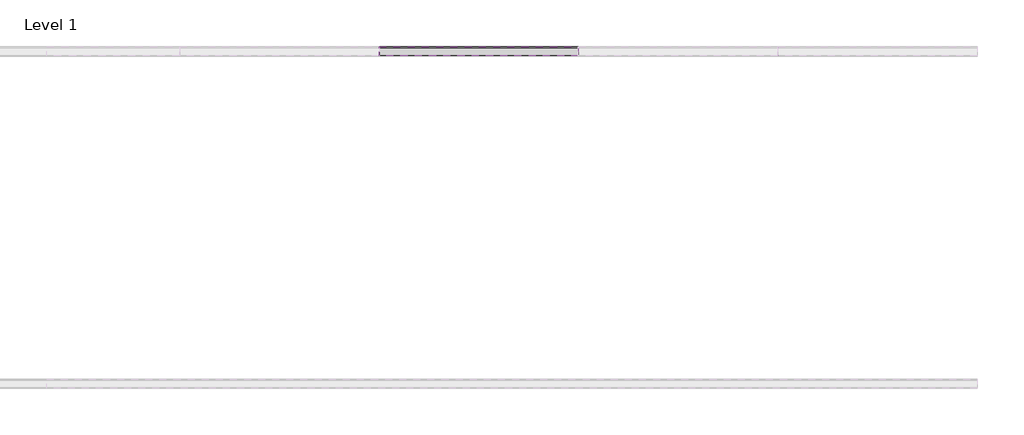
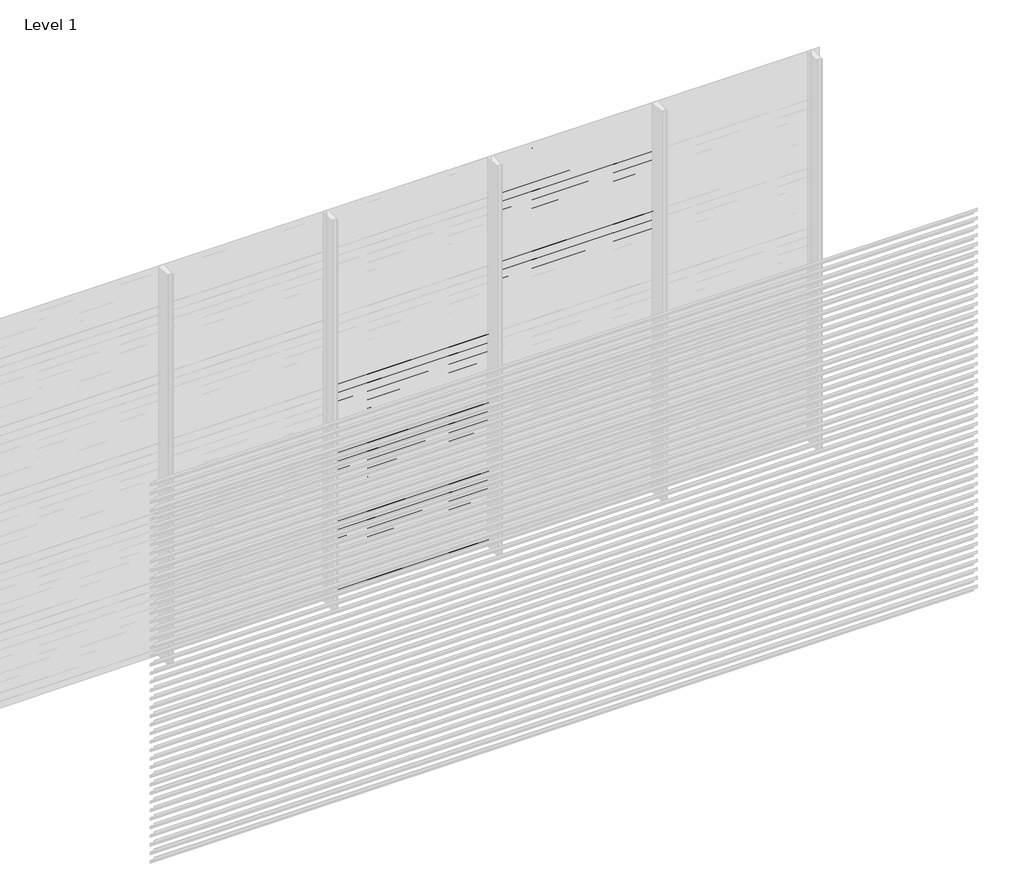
# One storey, part 128 of 540: 43 proxies.
"""IFC4 building model written with IfcOpenShell, lengths in millimetres."""

from ifc_helpers import new_model, si_unit, point, frame, frame_2d, origin, place, context, project, spatial, polyline, circle_curve, trimmed, segment, composite_curve, outline, extrude, element, save

model = new_model("IFC4")

# Units and contexts
model_context = context("Model", 3, world=origin())
ifc_project = project(units=[si_unit("LENGTHUNIT", "METRE", prefix="MILLI")], contexts=[model_context])

# Site, building, storey
site = spatial("IfcSite", under=ifc_project)
building = spatial("IfcBuilding", under=site)
storey = spatial("IfcBuildingStorey", under=building, Name="Level 1", Elevation=0.0)

# Proxies
placement = place(None, origin())
element("IfcBuildingElementProxy", 1, Name="Wall Sweeps", at=placement, inside=storey, context=model_context, shape_type="SweptSolid", body=[
    extrude(outline(composite_curve([segment(trimmed(circle_curve(frame_2d((14013.609548, 1777.7676769)), 26.4944656), [point((14030.5717655, 1798.1205608))], [point((14040.0540136, 1779.3946208))], False, "CARTESIAN"), True, "CONTINUOUS"), segment(polyline([(14040.0540136, 1779.3946208), (14040.0540136, 1771.5), (14038.8040136, 1772.2216933), (14038.8040136, 1777.7676769)]), True, "CONTINUOUS"), segment(trimmed(circle_curve(frame_2d((14013.609548, 1777.7676769)), 25.1944656), [point((14038.8040136, 1777.7676769))], [point((14029.7815085, 1797.086807))], True, "CARTESIAN"), True, "CONTINUOUS"), segment(polyline([(14029.7815085, 1797.086807), (13985.0540136, 1828.3158044), (13985.0540136, 1848.0), (13986.3040136, 1848.0), (13986.3040136, 1829.0285629), (14030.5717655, 1798.1205608)]), True, "CONTINUOUS")], self_intersect=False)), frame((91866.6208097, 0.0, 0.0), z_axis=(1.0, 0.0, 0.0), x_axis=(0.0, 1.0, 0.0)), (0.0, 0.0, 1.0), 1199.9999999),
])
element("IfcBuildingElementProxy", 2, Name="Wall Sweeps", at=placement, inside=storey, context=model_context, shape_type="SweptSolid", body=[
    extrude(outline(composite_curve([segment(trimmed(circle_curve(frame_2d((14013.609548, 1711.7676769)), 26.4944656), [point((14030.5717655, 1732.1205608))], [point((14040.0540136, 1713.3946208))], False, "CARTESIAN"), True, "CONTINUOUS"), segment(polyline([(14040.0540136, 1713.3946208), (14040.0540136, 1705.5), (14038.8040136, 1706.2216933), (14038.8040136, 1711.7676769)]), True, "CONTINUOUS"), segment(trimmed(circle_curve(frame_2d((14013.609548, 1711.7676769)), 25.1944656), [point((14038.8040136, 1711.7676769))], [point((14029.7815085, 1731.086807))], True, "CARTESIAN"), True, "CONTINUOUS"), segment(polyline([(14029.7815085, 1731.086807), (13985.0540136, 1762.3158044), (13985.0540136, 1782.0), (13986.3040136, 1782.0), (13986.3040136, 1763.0285629), (14030.5717655, 1732.1205608)]), True, "CONTINUOUS")], self_intersect=False)), frame((91866.6208097, 0.0, 0.0), z_axis=(1.0, 0.0, 0.0), x_axis=(0.0, 1.0, 0.0)), (0.0, 0.0, 1.0), 1199.9999999),
])
element("IfcBuildingElementProxy", 3, Name="Wall Sweeps", at=placement, inside=storey, context=model_context, shape_type="SweptSolid", body=[
    extrude(outline(composite_curve([segment(trimmed(circle_curve(frame_2d((14013.609548, 1645.7676769)), 26.4944656), [point((14030.5717655, 1666.1205608))], [point((14040.0540136, 1647.3946208))], False, "CARTESIAN"), True, "CONTINUOUS"), segment(polyline([(14040.0540136, 1647.3946208), (14040.0540136, 1639.5), (14038.8040136, 1640.2216933), (14038.8040136, 1645.7676769)]), True, "CONTINUOUS"), segment(trimmed(circle_curve(frame_2d((14013.609548, 1645.7676769)), 25.1944656), [point((14038.8040136, 1645.7676769))], [point((14029.7815085, 1665.086807))], True, "CARTESIAN"), True, "CONTINUOUS"), segment(polyline([(14029.7815085, 1665.086807), (13985.0540136, 1696.3158044), (13985.0540136, 1716.0), (13986.3040136, 1716.0), (13986.3040136, 1697.0285629), (14030.5717655, 1666.1205608)]), True, "CONTINUOUS")], self_intersect=False)), frame((91866.6208097, 0.0, 0.0), z_axis=(1.0, 0.0, 0.0), x_axis=(0.0, 1.0, 0.0)), (0.0, 0.0, 1.0), 1199.9999999),
])
element("IfcBuildingElementProxy", 4, Name="Wall Sweeps", at=placement, inside=storey, context=model_context, shape_type="SweptSolid", body=[
    extrude(outline(composite_curve([segment(trimmed(circle_curve(frame_2d((14013.609548, 1579.7676769)), 26.4944656), [point((14030.5717655, 1600.1205608))], [point((14040.0540136, 1581.3946208))], False, "CARTESIAN"), True, "CONTINUOUS"), segment(polyline([(14040.0540136, 1581.3946208), (14040.0540136, 1573.5), (14038.8040136, 1574.2216933), (14038.8040136, 1579.7676769)]), True, "CONTINUOUS"), segment(trimmed(circle_curve(frame_2d((14013.609548, 1579.7676769)), 25.1944656), [point((14038.8040136, 1579.7676769))], [point((14029.7815085, 1599.086807))], True, "CARTESIAN"), True, "CONTINUOUS"), segment(polyline([(14029.7815085, 1599.086807), (13985.0540136, 1630.3158044), (13985.0540136, 1650.0), (13986.3040136, 1650.0), (13986.3040136, 1631.0285629), (14030.5717655, 1600.1205608)]), True, "CONTINUOUS")], self_intersect=False)), frame((91866.6208097, 0.0, 0.0), z_axis=(1.0, 0.0, 0.0), x_axis=(0.0, 1.0, 0.0)), (0.0, 0.0, 1.0), 1199.9999999),
])
element("IfcBuildingElementProxy", 5, Name="Wall Sweeps", at=placement, inside=storey, context=model_context, shape_type="SweptSolid", body=[
    extrude(outline(composite_curve([segment(trimmed(circle_curve(frame_2d((14013.609548, 1513.7676769)), 26.4944656), [point((14030.5717655, 1534.1205608))], [point((14040.0540136, 1515.3946208))], False, "CARTESIAN"), True, "CONTINUOUS"), segment(polyline([(14040.0540136, 1515.3946208), (14040.0540136, 1507.5), (14038.8040136, 1508.2216933), (14038.8040136, 1513.7676769)]), True, "CONTINUOUS"), segment(trimmed(circle_curve(frame_2d((14013.609548, 1513.7676769)), 25.1944656), [point((14038.8040136, 1513.7676769))], [point((14029.7815085, 1533.086807))], True, "CARTESIAN"), True, "CONTINUOUS"), segment(polyline([(14029.7815085, 1533.086807), (13985.0540136, 1564.3158044), (13985.0540136, 1584.0), (13986.3040136, 1584.0), (13986.3040136, 1565.0285629), (14030.5717655, 1534.1205608)]), True, "CONTINUOUS")], self_intersect=False)), frame((91866.6208097, 0.0, 0.0), z_axis=(1.0, 0.0, 0.0), x_axis=(0.0, 1.0, 0.0)), (0.0, 0.0, 1.0), 1199.9999999),
])
element("IfcBuildingElementProxy", 6, Name="Wall Sweeps", at=placement, inside=storey, context=model_context, shape_type="SweptSolid", body=[
    extrude(outline(composite_curve([segment(trimmed(circle_curve(frame_2d((14013.609548, 1447.7676769)), 26.4944656), [point((14030.5717655, 1468.1205608))], [point((14040.0540136, 1449.3946208))], False, "CARTESIAN"), True, "CONTINUOUS"), segment(polyline([(14040.0540136, 1449.3946208), (14040.0540136, 1441.5), (14038.8040136, 1442.2216933), (14038.8040136, 1447.7676769)]), True, "CONTINUOUS"), segment(trimmed(circle_curve(frame_2d((14013.609548, 1447.7676769)), 25.1944656), [point((14038.8040136, 1447.7676769))], [point((14029.7815085, 1467.086807))], True, "CARTESIAN"), True, "CONTINUOUS"), segment(polyline([(14029.7815085, 1467.086807), (13985.0540136, 1498.3158044), (13985.0540136, 1518.0), (13986.3040136, 1518.0), (13986.3040136, 1499.0285629), (14030.5717655, 1468.1205608)]), True, "CONTINUOUS")], self_intersect=False)), frame((91866.6208097, 0.0, 0.0), z_axis=(1.0, 0.0, 0.0), x_axis=(0.0, 1.0, 0.0)), (0.0, 0.0, 1.0), 1199.9999999),
])
element("IfcBuildingElementProxy", 7, Name="Wall Sweeps", at=placement, inside=storey, context=model_context, shape_type="SweptSolid", body=[
    extrude(outline(composite_curve([segment(trimmed(circle_curve(frame_2d((14013.609548, 1381.7676769)), 26.4944656), [point((14030.5717655, 1402.1205608))], [point((14040.0540136, 1383.3946208))], False, "CARTESIAN"), True, "CONTINUOUS"), segment(polyline([(14040.0540136, 1383.3946208), (14040.0540136, 1375.5), (14038.8040136, 1376.2216933), (14038.8040136, 1381.7676769)]), True, "CONTINUOUS"), segment(trimmed(circle_curve(frame_2d((14013.609548, 1381.7676769)), 25.1944656), [point((14038.8040136, 1381.7676769))], [point((14029.7815085, 1401.086807))], True, "CARTESIAN"), True, "CONTINUOUS"), segment(polyline([(14029.7815085, 1401.086807), (13985.0540136, 1432.3158044), (13985.0540136, 1452.0), (13986.3040136, 1452.0), (13986.3040136, 1433.0285629), (14030.5717655, 1402.1205608)]), True, "CONTINUOUS")], self_intersect=False)), frame((91866.6208097, 0.0, 0.0), z_axis=(1.0, 0.0, 0.0), x_axis=(0.0, 1.0, 0.0)), (0.0, 0.0, 1.0), 1199.9999999),
])
element("IfcBuildingElementProxy", 8, Name="Wall Sweeps", at=placement, inside=storey, context=model_context, shape_type="SweptSolid", body=[
    extrude(outline(composite_curve([segment(trimmed(circle_curve(frame_2d((14013.609548, 1315.7676769)), 26.4944656), [point((14030.5717655, 1336.1205608))], [point((14040.0540136, 1317.3946208))], False, "CARTESIAN"), True, "CONTINUOUS"), segment(polyline([(14040.0540136, 1317.3946208), (14040.0540136, 1309.5), (14038.8040136, 1310.2216933), (14038.8040136, 1315.7676769)]), True, "CONTINUOUS"), segment(trimmed(circle_curve(frame_2d((14013.609548, 1315.7676769)), 25.1944656), [point((14038.8040136, 1315.7676769))], [point((14029.7815085, 1335.086807))], True, "CARTESIAN"), True, "CONTINUOUS"), segment(polyline([(14029.7815085, 1335.086807), (13985.0540136, 1366.3158044), (13985.0540136, 1386.0), (13986.3040136, 1386.0), (13986.3040136, 1367.0285629), (14030.5717655, 1336.1205608)]), True, "CONTINUOUS")], self_intersect=False)), frame((91866.6208097, 0.0, 0.0), z_axis=(1.0, 0.0, 0.0), x_axis=(0.0, 1.0, 0.0)), (0.0, 0.0, 1.0), 1199.9999999),
])
element("IfcBuildingElementProxy", 9, Name="Wall Sweeps", at=placement, inside=storey, context=model_context, shape_type="SweptSolid", body=[
    extrude(outline(composite_curve([segment(trimmed(circle_curve(frame_2d((14013.609548, 1249.7676769)), 26.4944656), [point((14030.5717655, 1270.1205608))], [point((14040.0540136, 1251.3946208))], False, "CARTESIAN"), True, "CONTINUOUS"), segment(polyline([(14040.0540136, 1251.3946208), (14040.0540136, 1243.5), (14038.8040136, 1244.2216933), (14038.8040136, 1249.7676769)]), True, "CONTINUOUS"), segment(trimmed(circle_curve(frame_2d((14013.609548, 1249.7676769)), 25.1944656), [point((14038.8040136, 1249.7676769))], [point((14029.7815085, 1269.086807))], True, "CARTESIAN"), True, "CONTINUOUS"), segment(polyline([(14029.7815085, 1269.086807), (13985.0540136, 1300.3158044), (13985.0540136, 1320.0), (13986.3040136, 1320.0), (13986.3040136, 1301.0285629), (14030.5717655, 1270.1205608)]), True, "CONTINUOUS")], self_intersect=False)), frame((91866.6208097, 0.0, 0.0), z_axis=(1.0, 0.0, 0.0), x_axis=(0.0, 1.0, 0.0)), (0.0, 0.0, 1.0), 1199.9999999),
])
element("IfcBuildingElementProxy", 10, Name="Wall Sweeps", at=placement, inside=storey, context=model_context, shape_type="SweptSolid", body=[
    extrude(outline(composite_curve([segment(trimmed(circle_curve(frame_2d((14013.609548, 1183.7676769)), 26.4944656), [point((14030.5717655, 1204.1205608))], [point((14040.0540136, 1185.3946208))], False, "CARTESIAN"), True, "CONTINUOUS"), segment(polyline([(14040.0540136, 1185.3946208), (14040.0540136, 1177.5), (14038.8040136, 1178.2216933), (14038.8040136, 1183.7676769)]), True, "CONTINUOUS"), segment(trimmed(circle_curve(frame_2d((14013.609548, 1183.7676769)), 25.1944656), [point((14038.8040136, 1183.7676769))], [point((14029.7815085, 1203.086807))], True, "CARTESIAN"), True, "CONTINUOUS"), segment(polyline([(14029.7815085, 1203.086807), (13985.0540136, 1234.3158044), (13985.0540136, 1254.0), (13986.3040136, 1254.0), (13986.3040136, 1235.0285629), (14030.5717655, 1204.1205608)]), True, "CONTINUOUS")], self_intersect=False)), frame((91866.6208097, 0.0, 0.0), z_axis=(1.0, 0.0, 0.0), x_axis=(0.0, 1.0, 0.0)), (0.0, 0.0, 1.0), 1199.9999999),
])
element("IfcBuildingElementProxy", 11, Name="Wall Sweeps", at=placement, inside=storey, context=model_context, shape_type="SweptSolid", body=[
    extrude(outline(composite_curve([segment(trimmed(circle_curve(frame_2d((14013.609548, 1117.7676769)), 26.4944656), [point((14030.5717655, 1138.1205608))], [point((14040.0540136, 1119.3946208))], False, "CARTESIAN"), True, "CONTINUOUS"), segment(polyline([(14040.0540136, 1119.3946208), (14040.0540136, 1111.5), (14038.8040136, 1112.2216933), (14038.8040136, 1117.7676769)]), True, "CONTINUOUS"), segment(trimmed(circle_curve(frame_2d((14013.609548, 1117.7676769)), 25.1944656), [point((14038.8040136, 1117.7676769))], [point((14029.7815085, 1137.086807))], True, "CARTESIAN"), True, "CONTINUOUS"), segment(polyline([(14029.7815085, 1137.086807), (13985.0540136, 1168.3158044), (13985.0540136, 1188.0), (13986.3040136, 1188.0), (13986.3040136, 1169.0285629), (14030.5717655, 1138.1205608)]), True, "CONTINUOUS")], self_intersect=False)), frame((91866.6208097, 0.0, 0.0), z_axis=(1.0, 0.0, 0.0), x_axis=(0.0, 1.0, 0.0)), (0.0, 0.0, 1.0), 1199.9999999),
])
element("IfcBuildingElementProxy", 12, Name="Wall Sweeps", at=placement, inside=storey, context=model_context, shape_type="SweptSolid", body=[
    extrude(outline(composite_curve([segment(trimmed(circle_curve(frame_2d((14013.609548, 1051.7676769)), 26.4944656), [point((14030.5717655, 1072.1205608))], [point((14040.0540136, 1053.3946208))], False, "CARTESIAN"), True, "CONTINUOUS"), segment(polyline([(14040.0540136, 1053.3946208), (14040.0540136, 1045.5), (14038.8040136, 1046.2216933), (14038.8040136, 1051.7676769)]), True, "CONTINUOUS"), segment(trimmed(circle_curve(frame_2d((14013.609548, 1051.7676769)), 25.1944656), [point((14038.8040136, 1051.7676769))], [point((14029.7815085, 1071.086807))], True, "CARTESIAN"), True, "CONTINUOUS"), segment(polyline([(14029.7815085, 1071.086807), (13985.0540136, 1102.3158044), (13985.0540136, 1122.0), (13986.3040136, 1122.0), (13986.3040136, 1103.0285629), (14030.5717655, 1072.1205608)]), True, "CONTINUOUS")], self_intersect=False)), frame((91866.6208097, 0.0, 0.0), z_axis=(1.0, 0.0, 0.0), x_axis=(0.0, 1.0, 0.0)), (0.0, 0.0, 1.0), 1199.9999999),
])
element("IfcBuildingElementProxy", 13, Name="Wall Sweeps", at=placement, inside=storey, context=model_context, shape_type="SweptSolid", body=[
    extrude(outline(composite_curve([segment(trimmed(circle_curve(frame_2d((14013.609548, 985.7676769)), 26.4944656), [point((14030.5717655, 1006.1205608))], [point((14040.0540136, 987.3946208))], False, "CARTESIAN"), True, "CONTINUOUS"), segment(polyline([(14040.0540136, 987.3946208), (14040.0540136, 979.5), (14038.8040136, 980.2216933), (14038.8040136, 985.7676769)]), True, "CONTINUOUS"), segment(trimmed(circle_curve(frame_2d((14013.609548, 985.7676769)), 25.1944656), [point((14038.8040136, 985.7676769))], [point((14029.7815085, 1005.086807))], True, "CARTESIAN"), True, "CONTINUOUS"), segment(polyline([(14029.7815085, 1005.086807), (13985.0540136, 1036.3158044), (13985.0540136, 1056.0), (13986.3040136, 1056.0), (13986.3040136, 1037.0285629), (14030.5717655, 1006.1205608)]), True, "CONTINUOUS")], self_intersect=False)), frame((91866.6208097, 0.0, 0.0), z_axis=(1.0, 0.0, 0.0), x_axis=(0.0, 1.0, 0.0)), (0.0, 0.0, 1.0), 1199.9999999),
])
element("IfcBuildingElementProxy", 14, Name="Wall Sweeps", at=placement, inside=storey, context=model_context, shape_type="SweptSolid", body=[
    extrude(outline(composite_curve([segment(trimmed(circle_curve(frame_2d((14013.609548, 919.7676769)), 26.4944656), [point((14030.5717655, 940.1205608))], [point((14040.0540136, 921.3946208))], False, "CARTESIAN"), True, "CONTINUOUS"), segment(polyline([(14040.0540136, 921.3946208), (14040.0540136, 913.5), (14038.8040136, 914.2216933), (14038.8040136, 919.7676769)]), True, "CONTINUOUS"), segment(trimmed(circle_curve(frame_2d((14013.609548, 919.7676769)), 25.1944656), [point((14038.8040136, 919.7676769))], [point((14029.7815085, 939.086807))], True, "CARTESIAN"), True, "CONTINUOUS"), segment(polyline([(14029.7815085, 939.086807), (13985.0540136, 970.3158044), (13985.0540136, 990.0), (13986.3040136, 990.0), (13986.3040136, 971.0285629), (14030.5717655, 940.1205608)]), True, "CONTINUOUS")], self_intersect=False)), frame((91866.6208097, 0.0, 0.0), z_axis=(1.0, 0.0, 0.0), x_axis=(0.0, 1.0, 0.0)), (0.0, 0.0, 1.0), 1199.9999999),
])
element("IfcBuildingElementProxy", 15, Name="Wall Sweeps", at=placement, inside=storey, context=model_context, shape_type="SweptSolid", body=[
    extrude(outline(composite_curve([segment(trimmed(circle_curve(frame_2d((14013.609548, 853.7676769)), 26.4944656), [point((14030.5717655, 874.1205608))], [point((14040.0540136, 855.3946208))], False, "CARTESIAN"), True, "CONTINUOUS"), segment(polyline([(14040.0540136, 855.3946208), (14040.0540136, 847.5), (14038.8040136, 848.2216933), (14038.8040136, 853.7676769)]), True, "CONTINUOUS"), segment(trimmed(circle_curve(frame_2d((14013.609548, 853.7676769)), 25.1944656), [point((14038.8040136, 853.7676769))], [point((14029.7815085, 873.086807))], True, "CARTESIAN"), True, "CONTINUOUS"), segment(polyline([(14029.7815085, 873.086807), (13985.0540136, 904.3158044), (13985.0540136, 924.0), (13986.3040136, 924.0), (13986.3040136, 905.0285629), (14030.5717655, 874.1205608)]), True, "CONTINUOUS")], self_intersect=False)), frame((91866.6208097, 0.0, 0.0), z_axis=(1.0, 0.0, 0.0), x_axis=(0.0, 1.0, 0.0)), (0.0, 0.0, 1.0), 1199.9999999),
])
element("IfcBuildingElementProxy", 16, Name="Wall Sweeps", at=placement, inside=storey, context=model_context, shape_type="SweptSolid", body=[
    extrude(outline(composite_curve([segment(trimmed(circle_curve(frame_2d((14013.609548, 787.7676769)), 26.4944656), [point((14030.5717655, 808.1205608))], [point((14040.0540136, 789.3946208))], False, "CARTESIAN"), True, "CONTINUOUS"), segment(polyline([(14040.0540136, 789.3946208), (14040.0540136, 781.5), (14038.8040136, 782.2216933), (14038.8040136, 787.7676769)]), True, "CONTINUOUS"), segment(trimmed(circle_curve(frame_2d((14013.609548, 787.7676769)), 25.1944656), [point((14038.8040136, 787.7676769))], [point((14029.7815085, 807.086807))], True, "CARTESIAN"), True, "CONTINUOUS"), segment(polyline([(14029.7815085, 807.086807), (13985.0540136, 838.3158044), (13985.0540136, 858.0), (13986.3040136, 858.0), (13986.3040136, 839.0285629), (14030.5717655, 808.1205608)]), True, "CONTINUOUS")], self_intersect=False)), frame((91866.6208097, 0.0, 0.0), z_axis=(1.0, 0.0, 0.0), x_axis=(0.0, 1.0, 0.0)), (0.0, 0.0, 1.0), 1199.9999999),
])
element("IfcBuildingElementProxy", 17, Name="Wall Sweeps", at=placement, inside=storey, context=model_context, shape_type="SweptSolid", body=[
    extrude(outline(composite_curve([segment(trimmed(circle_curve(frame_2d((14013.609548, 721.7676769)), 26.4944656), [point((14030.5717655, 742.1205608))], [point((14040.0540136, 723.3946208))], False, "CARTESIAN"), True, "CONTINUOUS"), segment(polyline([(14040.0540136, 723.3946208), (14040.0540136, 715.5), (14038.8040136, 716.2216933), (14038.8040136, 721.7676769)]), True, "CONTINUOUS"), segment(trimmed(circle_curve(frame_2d((14013.609548, 721.7676769)), 25.1944656), [point((14038.8040136, 721.7676769))], [point((14029.7815085, 741.086807))], True, "CARTESIAN"), True, "CONTINUOUS"), segment(polyline([(14029.7815085, 741.086807), (13985.0540136, 772.3158044), (13985.0540136, 792.0), (13986.3040136, 792.0), (13986.3040136, 773.0285629), (14030.5717655, 742.1205608)]), True, "CONTINUOUS")], self_intersect=False)), frame((91866.6208097, 0.0, 0.0), z_axis=(1.0, 0.0, 0.0), x_axis=(0.0, 1.0, 0.0)), (0.0, 0.0, 1.0), 1199.9999999),
])
element("IfcBuildingElementProxy", 18, Name="Wall Sweeps", at=placement, inside=storey, context=model_context, shape_type="SweptSolid", body=[
    extrude(outline(composite_curve([segment(trimmed(circle_curve(frame_2d((14013.609548, 655.7676769)), 26.4944656), [point((14030.5717655, 676.1205608))], [point((14040.0540136, 657.3946208))], False, "CARTESIAN"), True, "CONTINUOUS"), segment(polyline([(14040.0540136, 657.3946208), (14040.0540136, 649.5), (14038.8040136, 650.2216933), (14038.8040136, 655.7676769)]), True, "CONTINUOUS"), segment(trimmed(circle_curve(frame_2d((14013.609548, 655.7676769)), 25.1944656), [point((14038.8040136, 655.7676769))], [point((14029.7815085, 675.086807))], True, "CARTESIAN"), True, "CONTINUOUS"), segment(polyline([(14029.7815085, 675.086807), (13985.0540136, 706.3158044), (13985.0540136, 726.0), (13986.3040136, 726.0), (13986.3040136, 707.0285629), (14030.5717655, 676.1205608)]), True, "CONTINUOUS")], self_intersect=False)), frame((91866.6208097, 0.0, 0.0), z_axis=(1.0, 0.0, 0.0), x_axis=(0.0, 1.0, 0.0)), (0.0, 0.0, 1.0), 1199.9999999),
])
element("IfcBuildingElementProxy", 19, Name="Wall Sweeps", at=placement, inside=storey, context=model_context, shape_type="SweptSolid", body=[
    extrude(outline(composite_curve([segment(trimmed(circle_curve(frame_2d((14013.609548, 589.7676769)), 26.4944656), [point((14030.5717655, 610.1205608))], [point((14040.0540136, 591.3946208))], False, "CARTESIAN"), True, "CONTINUOUS"), segment(polyline([(14040.0540136, 591.3946208), (14040.0540136, 583.5), (14038.8040136, 584.2216933), (14038.8040136, 589.7676769)]), True, "CONTINUOUS"), segment(trimmed(circle_curve(frame_2d((14013.609548, 589.7676769)), 25.1944656), [point((14038.8040136, 589.7676769))], [point((14029.7815085, 609.086807))], True, "CARTESIAN"), True, "CONTINUOUS"), segment(polyline([(14029.7815085, 609.086807), (13985.0540136, 640.3158044), (13985.0540136, 660.0), (13986.3040136, 660.0), (13986.3040136, 641.0285629), (14030.5717655, 610.1205608)]), True, "CONTINUOUS")], self_intersect=False)), frame((91866.6208097, 0.0, 0.0), z_axis=(1.0, 0.0, 0.0), x_axis=(0.0, 1.0, 0.0)), (0.0, 0.0, 1.0), 1199.9999999),
])
element("IfcBuildingElementProxy", 20, Name="Wall Sweeps", at=placement, inside=storey, context=model_context, shape_type="SweptSolid", body=[
    extrude(outline(composite_curve([segment(trimmed(circle_curve(frame_2d((14013.609548, 523.7676769)), 26.4944656), [point((14030.5717655, 544.1205608))], [point((14040.0540136, 525.3946208))], False, "CARTESIAN"), True, "CONTINUOUS"), segment(polyline([(14040.0540136, 525.3946208), (14040.0540136, 517.5), (14038.8040136, 518.2216933), (14038.8040136, 523.7676769)]), True, "CONTINUOUS"), segment(trimmed(circle_curve(frame_2d((14013.609548, 523.7676769)), 25.1944656), [point((14038.8040136, 523.7676769))], [point((14029.7815085, 543.086807))], True, "CARTESIAN"), True, "CONTINUOUS"), segment(polyline([(14029.7815085, 543.086807), (13985.0540136, 574.3158044), (13985.0540136, 594.0), (13986.3040136, 594.0), (13986.3040136, 575.0285629), (14030.5717655, 544.1205608)]), True, "CONTINUOUS")], self_intersect=False)), frame((91866.6208097, 0.0, 0.0), z_axis=(1.0, 0.0, 0.0), x_axis=(0.0, 1.0, 0.0)), (0.0, 0.0, 1.0), 1199.9999999),
])
element("IfcBuildingElementProxy", 21, Name="Wall Sweeps", at=placement, inside=storey, context=model_context, shape_type="SweptSolid", body=[
    extrude(outline(composite_curve([segment(trimmed(circle_curve(frame_2d((14013.609548, 457.7676769)), 26.4944656), [point((14030.5717655, 478.1205608))], [point((14040.0540136, 459.3946208))], False, "CARTESIAN"), True, "CONTINUOUS"), segment(polyline([(14040.0540136, 459.3946208), (14040.0540136, 451.5), (14038.8040136, 452.2216933), (14038.8040136, 457.7676769)]), True, "CONTINUOUS"), segment(trimmed(circle_curve(frame_2d((14013.609548, 457.7676769)), 25.1944656), [point((14038.8040136, 457.7676769))], [point((14029.7815085, 477.086807))], True, "CARTESIAN"), True, "CONTINUOUS"), segment(polyline([(14029.7815085, 477.086807), (13985.0540136, 508.3158044), (13985.0540136, 528.0), (13986.3040136, 528.0), (13986.3040136, 509.0285629), (14030.5717655, 478.1205608)]), True, "CONTINUOUS")], self_intersect=False)), frame((91866.6208097, 0.0, 0.0), z_axis=(1.0, 0.0, 0.0), x_axis=(0.0, 1.0, 0.0)), (0.0, 0.0, 1.0), 1199.9999999),
])
element("IfcBuildingElementProxy", 22, Name="Wall Sweeps", at=placement, inside=storey, context=model_context, shape_type="SweptSolid", body=[
    extrude(outline(composite_curve([segment(trimmed(circle_curve(frame_2d((14013.609548, 391.7676769)), 26.4944656), [point((14030.5717655, 412.1205608))], [point((14040.0540136, 393.3946208))], False, "CARTESIAN"), True, "CONTINUOUS"), segment(polyline([(14040.0540136, 393.3946208), (14040.0540136, 385.5), (14038.8040136, 386.2216933), (14038.8040136, 391.7676769)]), True, "CONTINUOUS"), segment(trimmed(circle_curve(frame_2d((14013.609548, 391.7676769)), 25.1944656), [point((14038.8040136, 391.7676769))], [point((14029.7815085, 411.086807))], True, "CARTESIAN"), True, "CONTINUOUS"), segment(polyline([(14029.7815085, 411.086807), (13985.0540136, 442.3158044), (13985.0540136, 462.0), (13986.3040136, 462.0), (13986.3040136, 443.0285629), (14030.5717655, 412.1205608)]), True, "CONTINUOUS")], self_intersect=False)), frame((91866.6208097, 0.0, 0.0), z_axis=(1.0, 0.0, 0.0), x_axis=(0.0, 1.0, 0.0)), (0.0, 0.0, 1.0), 1199.9999999),
])
element("IfcBuildingElementProxy", 23, Name="Wall Sweeps", at=placement, inside=storey, context=model_context, shape_type="SweptSolid", body=[
    extrude(outline(composite_curve([segment(trimmed(circle_curve(frame_2d((14013.609548, 325.7676769)), 26.4944656), [point((14030.5717655, 346.1205608))], [point((14040.0540136, 327.3946208))], False, "CARTESIAN"), True, "CONTINUOUS"), segment(polyline([(14040.0540136, 327.3946208), (14040.0540136, 319.5), (14038.8040136, 320.2216933), (14038.8040136, 325.7676769)]), True, "CONTINUOUS"), segment(trimmed(circle_curve(frame_2d((14013.609548, 325.7676769)), 25.1944656), [point((14038.8040136, 325.7676769))], [point((14029.7815085, 345.086807))], True, "CARTESIAN"), True, "CONTINUOUS"), segment(polyline([(14029.7815085, 345.086807), (13985.0540136, 376.3158044), (13985.0540136, 396.0), (13986.3040136, 396.0), (13986.3040136, 377.0285629), (14030.5717655, 346.1205608)]), True, "CONTINUOUS")], self_intersect=False)), frame((91866.6208097, 0.0, 0.0), z_axis=(1.0, 0.0, 0.0), x_axis=(0.0, 1.0, 0.0)), (0.0, 0.0, 1.0), 1199.9999999),
])
element("IfcBuildingElementProxy", 24, Name="Wall Sweeps", at=placement, inside=storey, context=model_context, shape_type="SweptSolid", body=[
    extrude(outline(composite_curve([segment(trimmed(circle_curve(frame_2d((14013.609548, 259.7676769)), 26.4944656), [point((14030.5717655, 280.1205608))], [point((14040.0540136, 261.3946208))], False, "CARTESIAN"), True, "CONTINUOUS"), segment(polyline([(14040.0540136, 261.3946208), (14040.0540136, 253.5), (14038.8040136, 254.2216933), (14038.8040136, 259.7676769)]), True, "CONTINUOUS"), segment(trimmed(circle_curve(frame_2d((14013.609548, 259.7676769)), 25.1944656), [point((14038.8040136, 259.7676769))], [point((14029.7815085, 279.086807))], True, "CARTESIAN"), True, "CONTINUOUS"), segment(polyline([(14029.7815085, 279.086807), (13985.0540136, 310.3158044), (13985.0540136, 330.0), (13986.3040136, 330.0), (13986.3040136, 311.0285629), (14030.5717655, 280.1205608)]), True, "CONTINUOUS")], self_intersect=False)), frame((91866.6208097, 0.0, 0.0), z_axis=(1.0, 0.0, 0.0), x_axis=(0.0, 1.0, 0.0)), (0.0, 0.0, 1.0), 1199.9999999),
])
element("IfcBuildingElementProxy", 25, Name="Wall Sweeps", at=placement, inside=storey, context=model_context, shape_type="SweptSolid", body=[
    extrude(outline(composite_curve([segment(trimmed(circle_curve(frame_2d((14013.609548, 193.7676769)), 26.4944656), [point((14030.5717655, 214.1205608))], [point((14040.0540136, 195.3946208))], False, "CARTESIAN"), True, "CONTINUOUS"), segment(polyline([(14040.0540136, 195.3946208), (14040.0540136, 187.5), (14038.8040136, 188.2216933), (14038.8040136, 193.7676769)]), True, "CONTINUOUS"), segment(trimmed(circle_curve(frame_2d((14013.609548, 193.7676769)), 25.1944656), [point((14038.8040136, 193.7676769))], [point((14029.7815085, 213.086807))], True, "CARTESIAN"), True, "CONTINUOUS"), segment(polyline([(14029.7815085, 213.086807), (13985.0540136, 244.3158044), (13985.0540136, 264.0), (13986.3040136, 264.0), (13986.3040136, 245.0285629), (14030.5717655, 214.1205608)]), True, "CONTINUOUS")], self_intersect=False)), frame((91866.6208097, 0.0, 0.0), z_axis=(1.0, 0.0, 0.0), x_axis=(0.0, 1.0, 0.0)), (0.0, 0.0, 1.0), 1199.9999999),
])
element("IfcBuildingElementProxy", 26, Name="Wall Sweeps", at=placement, inside=storey, context=model_context, shape_type="SweptSolid", body=[
    extrude(outline(composite_curve([segment(trimmed(circle_curve(frame_2d((14013.609548, 127.7676769)), 26.4944656), [point((14030.5717655, 148.1205608))], [point((14040.0540136, 129.3946208))], False, "CARTESIAN"), True, "CONTINUOUS"), segment(polyline([(14040.0540136, 129.3946208), (14040.0540136, 121.5), (14038.8040136, 122.2216933), (14038.8040136, 127.7676769)]), True, "CONTINUOUS"), segment(trimmed(circle_curve(frame_2d((14013.609548, 127.7676769)), 25.1944656), [point((14038.8040136, 127.7676769))], [point((14029.7815085, 147.086807))], True, "CARTESIAN"), True, "CONTINUOUS"), segment(polyline([(14029.7815085, 147.086807), (13985.0540136, 178.3158044), (13985.0540136, 198.0), (13986.3040136, 198.0), (13986.3040136, 179.0285629), (14030.5717655, 148.1205608)]), True, "CONTINUOUS")], self_intersect=False)), frame((91866.6208097, 0.0, 0.0), z_axis=(1.0, 0.0, 0.0), x_axis=(0.0, 1.0, 0.0)), (0.0, 0.0, 1.0), 1199.9999999),
])
element("IfcBuildingElementProxy", 27, Name="Wall Sweeps", at=placement, inside=storey, context=model_context, shape_type="SweptSolid", body=[
    extrude(outline(composite_curve([segment(trimmed(circle_curve(frame_2d((14013.609548, 61.7676769)), 26.4944656), [point((14030.5717655, 82.1205608))], [point((14040.0540136, 63.3946208))], False, "CARTESIAN"), True, "CONTINUOUS"), segment(polyline([(14040.0540136, 63.3946208), (14040.0540136, 55.5), (14038.8040136, 56.2216933), (14038.8040136, 61.7676769)]), True, "CONTINUOUS"), segment(trimmed(circle_curve(frame_2d((14013.609548, 61.7676769)), 25.1944656), [point((14038.8040136, 61.7676769))], [point((14029.7815085, 81.086807))], True, "CARTESIAN"), True, "CONTINUOUS"), segment(polyline([(14029.7815085, 81.086807), (13985.0540136, 112.3158044), (13985.0540136, 132.0), (13986.3040136, 132.0), (13986.3040136, 113.0285629), (14030.5717655, 82.1205608)]), True, "CONTINUOUS")], self_intersect=False)), frame((91866.6208097, 0.0, 0.0), z_axis=(1.0, 0.0, 0.0), x_axis=(0.0, 1.0, 0.0)), (0.0, 0.0, 1.0), 1199.9999999),
])
element("IfcBuildingElementProxy", 28, Name="Wall Sweeps", at=placement, inside=storey, context=model_context, shape_type="SweptSolid", body=[
    extrude(outline(composite_curve([segment(trimmed(circle_curve(frame_2d((14013.609548, -4.2323231)), 26.4944656), [point((14030.5717655, 16.1205608))], [point((14040.0540136, -2.6053792))], False, "CARTESIAN"), True, "CONTINUOUS"), segment(polyline([(14040.0540136, -2.6053792), (14040.0540136, -10.5), (14038.8040136, -9.7783067), (14038.8040136, -4.2323231)]), True, "CONTINUOUS"), segment(trimmed(circle_curve(frame_2d((14013.609548, -4.2323231)), 25.1944656), [point((14038.8040136, -4.2323231))], [point((14029.7815085, 15.086807))], True, "CARTESIAN"), True, "CONTINUOUS"), segment(polyline([(14029.7815085, 15.086807), (13985.0540136, 46.3158044), (13985.0540136, 66.0), (13986.3040136, 66.0), (13986.3040136, 47.0285629), (14030.5717655, 16.1205608)]), True, "CONTINUOUS")], self_intersect=False)), frame((91866.6208097, 0.0, 0.0), z_axis=(1.0, 0.0, 0.0), x_axis=(0.0, 1.0, 0.0)), (0.0, 0.0, 1.0), 1199.9999999),
])
element("IfcBuildingElementProxy", 29, Name="Wall Sweeps", at=placement, inside=storey, context=model_context, shape_type="SweptSolid", body=[
    extrude(outline(composite_curve([segment(trimmed(circle_curve(frame_2d((14013.609548, 2899.7676769)), 26.4944656), [point((14030.5717655, 2920.1205608))], [point((14040.0540136, 2901.3946208))], False, "CARTESIAN"), True, "CONTINUOUS"), segment(polyline([(14040.0540136, 2901.3946208), (14040.0540136, 2893.5), (14038.8040136, 2894.2216933), (14038.8040136, 2899.7676769)]), True, "CONTINUOUS"), segment(trimmed(circle_curve(frame_2d((14013.609548, 2899.7676769)), 25.1944656), [point((14038.8040136, 2899.7676769))], [point((14029.7815085, 2919.086807))], True, "CARTESIAN"), True, "CONTINUOUS"), segment(polyline([(14029.7815085, 2919.086807), (13985.0540136, 2950.3158044), (13985.0540136, 2970.0), (13986.3040136, 2970.0), (13986.3040136, 2951.0285629), (14030.5717655, 2920.1205608)]), True, "CONTINUOUS")], self_intersect=False)), frame((93066.6208096, 0.0, 0.0), z_axis=(1.0, 0.0, 0.0), x_axis=(0.0, 1.0, 0.0)), (0.0, 0.0, 1.0), 1199.9999999),
])
element("IfcBuildingElementProxy", 30, Name="Wall Sweeps", at=placement, inside=storey, context=model_context, shape_type="SweptSolid", body=[
    extrude(outline(composite_curve([segment(trimmed(circle_curve(frame_2d((14013.609548, 2833.7676769)), 26.4944656), [point((14030.5717655, 2854.1205608))], [point((14040.0540136, 2835.3946208))], False, "CARTESIAN"), True, "CONTINUOUS"), segment(polyline([(14040.0540136, 2835.3946208), (14040.0540136, 2827.5), (14038.8040136, 2828.2216933), (14038.8040136, 2833.7676769)]), True, "CONTINUOUS"), segment(trimmed(circle_curve(frame_2d((14013.609548, 2833.7676769)), 25.1944656), [point((14038.8040136, 2833.7676769))], [point((14029.7815085, 2853.086807))], True, "CARTESIAN"), True, "CONTINUOUS"), segment(polyline([(14029.7815085, 2853.086807), (13985.0540136, 2884.3158044), (13985.0540136, 2904.0), (13986.3040136, 2904.0), (13986.3040136, 2885.0285629), (14030.5717655, 2854.1205608)]), True, "CONTINUOUS")], self_intersect=False)), frame((93066.6208096, 0.0, 0.0), z_axis=(1.0, 0.0, 0.0), x_axis=(0.0, 1.0, 0.0)), (0.0, 0.0, 1.0), 1199.9999999),
])
element("IfcBuildingElementProxy", 31, Name="Wall Sweeps", at=placement, inside=storey, context=model_context, shape_type="SweptSolid", body=[
    extrude(outline(composite_curve([segment(trimmed(circle_curve(frame_2d((14013.609548, 2767.7676769)), 26.4944656), [point((14030.5717655, 2788.1205608))], [point((14040.0540136, 2769.3946208))], False, "CARTESIAN"), True, "CONTINUOUS"), segment(polyline([(14040.0540136, 2769.3946208), (14040.0540136, 2761.5), (14038.8040136, 2762.2216933), (14038.8040136, 2767.7676769)]), True, "CONTINUOUS"), segment(trimmed(circle_curve(frame_2d((14013.609548, 2767.7676769)), 25.1944656), [point((14038.8040136, 2767.7676769))], [point((14029.7815085, 2787.086807))], True, "CARTESIAN"), True, "CONTINUOUS"), segment(polyline([(14029.7815085, 2787.086807), (13985.0540136, 2818.3158044), (13985.0540136, 2838.0), (13986.3040136, 2838.0), (13986.3040136, 2819.0285629), (14030.5717655, 2788.1205608)]), True, "CONTINUOUS")], self_intersect=False)), frame((93066.6208096, 0.0, 0.0), z_axis=(1.0, 0.0, 0.0), x_axis=(0.0, 1.0, 0.0)), (0.0, 0.0, 1.0), 1199.9999999),
])
element("IfcBuildingElementProxy", 32, Name="Wall Sweeps", at=placement, inside=storey, context=model_context, shape_type="SweptSolid", body=[
    extrude(outline(composite_curve([segment(trimmed(circle_curve(frame_2d((14013.609548, 2701.7676769)), 26.4944656), [point((14030.5717655, 2722.1205608))], [point((14040.0540136, 2703.3946208))], False, "CARTESIAN"), True, "CONTINUOUS"), segment(polyline([(14040.0540136, 2703.3946208), (14040.0540136, 2695.5), (14038.8040136, 2696.2216933), (14038.8040136, 2701.7676769)]), True, "CONTINUOUS"), segment(trimmed(circle_curve(frame_2d((14013.609548, 2701.7676769)), 25.1944656), [point((14038.8040136, 2701.7676769))], [point((14029.7815085, 2721.086807))], True, "CARTESIAN"), True, "CONTINUOUS"), segment(polyline([(14029.7815085, 2721.086807), (13985.0540136, 2752.3158044), (13985.0540136, 2772.0), (13986.3040136, 2772.0), (13986.3040136, 2753.0285629), (14030.5717655, 2722.1205608)]), True, "CONTINUOUS")], self_intersect=False)), frame((93066.6208096, 0.0, 0.0), z_axis=(1.0, 0.0, 0.0), x_axis=(0.0, 1.0, 0.0)), (0.0, 0.0, 1.0), 1199.9999999),
])
element("IfcBuildingElementProxy", 33, Name="Wall Sweeps", at=placement, inside=storey, context=model_context, shape_type="SweptSolid", body=[
    extrude(outline(composite_curve([segment(trimmed(circle_curve(frame_2d((14013.609548, 2635.7676769)), 26.4944656), [point((14030.5717655, 2656.1205608))], [point((14040.0540136, 2637.3946208))], False, "CARTESIAN"), True, "CONTINUOUS"), segment(polyline([(14040.0540136, 2637.3946208), (14040.0540136, 2629.5), (14038.8040136, 2630.2216933), (14038.8040136, 2635.7676769)]), True, "CONTINUOUS"), segment(trimmed(circle_curve(frame_2d((14013.609548, 2635.7676769)), 25.1944656), [point((14038.8040136, 2635.7676769))], [point((14029.7815085, 2655.086807))], True, "CARTESIAN"), True, "CONTINUOUS"), segment(polyline([(14029.7815085, 2655.086807), (13985.0540136, 2686.3158044), (13985.0540136, 2706.0), (13986.3040136, 2706.0), (13986.3040136, 2687.0285629), (14030.5717655, 2656.1205608)]), True, "CONTINUOUS")], self_intersect=False)), frame((93066.6208096, 0.0, 0.0), z_axis=(1.0, 0.0, 0.0), x_axis=(0.0, 1.0, 0.0)), (0.0, 0.0, 1.0), 1199.9999999),
])
element("IfcBuildingElementProxy", 34, Name="Wall Sweeps", at=placement, inside=storey, context=model_context, shape_type="SweptSolid", body=[
    extrude(outline(composite_curve([segment(trimmed(circle_curve(frame_2d((14013.609548, 2569.7676769)), 26.4944656), [point((14030.5717655, 2590.1205608))], [point((14040.0540136, 2571.3946208))], False, "CARTESIAN"), True, "CONTINUOUS"), segment(polyline([(14040.0540136, 2571.3946208), (14040.0540136, 2563.5), (14038.8040136, 2564.2216933), (14038.8040136, 2569.7676769)]), True, "CONTINUOUS"), segment(trimmed(circle_curve(frame_2d((14013.609548, 2569.7676769)), 25.1944656), [point((14038.8040136, 2569.7676769))], [point((14029.7815085, 2589.086807))], True, "CARTESIAN"), True, "CONTINUOUS"), segment(polyline([(14029.7815085, 2589.086807), (13985.0540136, 2620.3158044), (13985.0540136, 2640.0), (13986.3040136, 2640.0), (13986.3040136, 2621.0285629), (14030.5717655, 2590.1205608)]), True, "CONTINUOUS")], self_intersect=False)), frame((93066.6208096, 0.0, 0.0), z_axis=(1.0, 0.0, 0.0), x_axis=(0.0, 1.0, 0.0)), (0.0, 0.0, 1.0), 1199.9999999),
])
element("IfcBuildingElementProxy", 35, Name="Wall Sweeps", at=placement, inside=storey, context=model_context, shape_type="SweptSolid", body=[
    extrude(outline(composite_curve([segment(trimmed(circle_curve(frame_2d((14013.609548, 2503.7676769)), 26.4944656), [point((14030.5717655, 2524.1205608))], [point((14040.0540136, 2505.3946208))], False, "CARTESIAN"), True, "CONTINUOUS"), segment(polyline([(14040.0540136, 2505.3946208), (14040.0540136, 2497.5), (14038.8040136, 2498.2216933), (14038.8040136, 2503.7676769)]), True, "CONTINUOUS"), segment(trimmed(circle_curve(frame_2d((14013.609548, 2503.7676769)), 25.1944656), [point((14038.8040136, 2503.7676769))], [point((14029.7815085, 2523.086807))], True, "CARTESIAN"), True, "CONTINUOUS"), segment(polyline([(14029.7815085, 2523.086807), (13985.0540136, 2554.3158044), (13985.0540136, 2574.0), (13986.3040136, 2574.0), (13986.3040136, 2555.0285629), (14030.5717655, 2524.1205608)]), True, "CONTINUOUS")], self_intersect=False)), frame((93066.6208096, 0.0, 0.0), z_axis=(1.0, 0.0, 0.0), x_axis=(0.0, 1.0, 0.0)), (0.0, 0.0, 1.0), 1199.9999999),
])
element("IfcBuildingElementProxy", 36, Name="Wall Sweeps", at=placement, inside=storey, context=model_context, shape_type="SweptSolid", body=[
    extrude(outline(composite_curve([segment(trimmed(circle_curve(frame_2d((14013.609548, 2437.7676769)), 26.4944656), [point((14030.5717655, 2458.1205608))], [point((14040.0540136, 2439.3946208))], False, "CARTESIAN"), True, "CONTINUOUS"), segment(polyline([(14040.0540136, 2439.3946208), (14040.0540136, 2431.5), (14038.8040136, 2432.2216933), (14038.8040136, 2437.7676769)]), True, "CONTINUOUS"), segment(trimmed(circle_curve(frame_2d((14013.609548, 2437.7676769)), 25.1944656), [point((14038.8040136, 2437.7676769))], [point((14029.7815085, 2457.086807))], True, "CARTESIAN"), True, "CONTINUOUS"), segment(polyline([(14029.7815085, 2457.086807), (13985.0540136, 2488.3158044), (13985.0540136, 2508.0), (13986.3040136, 2508.0), (13986.3040136, 2489.0285629), (14030.5717655, 2458.1205608)]), True, "CONTINUOUS")], self_intersect=False)), frame((93066.6208096, 0.0, 0.0), z_axis=(1.0, 0.0, 0.0), x_axis=(0.0, 1.0, 0.0)), (0.0, 0.0, 1.0), 1199.9999999),
])
element("IfcBuildingElementProxy", 37, Name="Wall Sweeps", at=placement, inside=storey, context=model_context, shape_type="SweptSolid", body=[
    extrude(outline(composite_curve([segment(trimmed(circle_curve(frame_2d((14013.609548, 2371.7676769)), 26.4944656), [point((14030.5717655, 2392.1205608))], [point((14040.0540136, 2373.3946208))], False, "CARTESIAN"), True, "CONTINUOUS"), segment(polyline([(14040.0540136, 2373.3946208), (14040.0540136, 2365.5), (14038.8040136, 2366.2216933), (14038.8040136, 2371.7676769)]), True, "CONTINUOUS"), segment(trimmed(circle_curve(frame_2d((14013.609548, 2371.7676769)), 25.1944656), [point((14038.8040136, 2371.7676769))], [point((14029.7815085, 2391.086807))], True, "CARTESIAN"), True, "CONTINUOUS"), segment(polyline([(14029.7815085, 2391.086807), (13985.0540136, 2422.3158044), (13985.0540136, 2442.0), (13986.3040136, 2442.0), (13986.3040136, 2423.0285629), (14030.5717655, 2392.1205608)]), True, "CONTINUOUS")], self_intersect=False)), frame((93066.6208096, 0.0, 0.0), z_axis=(1.0, 0.0, 0.0), x_axis=(0.0, 1.0, 0.0)), (0.0, 0.0, 1.0), 1199.9999999),
])
element("IfcBuildingElementProxy", 38, Name="Wall Sweeps", at=placement, inside=storey, context=model_context, shape_type="SweptSolid", body=[
    extrude(outline(composite_curve([segment(trimmed(circle_curve(frame_2d((14013.609548, 2305.7676769)), 26.4944656), [point((14030.5717655, 2326.1205608))], [point((14040.0540136, 2307.3946208))], False, "CARTESIAN"), True, "CONTINUOUS"), segment(polyline([(14040.0540136, 2307.3946208), (14040.0540136, 2299.5), (14038.8040136, 2300.2216933), (14038.8040136, 2305.7676769)]), True, "CONTINUOUS"), segment(trimmed(circle_curve(frame_2d((14013.609548, 2305.7676769)), 25.1944656), [point((14038.8040136, 2305.7676769))], [point((14029.7815085, 2325.086807))], True, "CARTESIAN"), True, "CONTINUOUS"), segment(polyline([(14029.7815085, 2325.086807), (13985.0540136, 2356.3158044), (13985.0540136, 2376.0), (13986.3040136, 2376.0), (13986.3040136, 2357.0285629), (14030.5717655, 2326.1205608)]), True, "CONTINUOUS")], self_intersect=False)), frame((93066.6208096, 0.0, 0.0), z_axis=(1.0, 0.0, 0.0), x_axis=(0.0, 1.0, 0.0)), (0.0, 0.0, 1.0), 1199.9999999),
])
element("IfcBuildingElementProxy", 39, Name="Wall Sweeps", at=placement, inside=storey, context=model_context, shape_type="SweptSolid", body=[
    extrude(outline(composite_curve([segment(trimmed(circle_curve(frame_2d((14013.609548, 2239.7676769)), 26.4944656), [point((14030.5717655, 2260.1205608))], [point((14040.0540136, 2241.3946208))], False, "CARTESIAN"), True, "CONTINUOUS"), segment(polyline([(14040.0540136, 2241.3946208), (14040.0540136, 2233.5), (14038.8040136, 2234.2216933), (14038.8040136, 2239.7676769)]), True, "CONTINUOUS"), segment(trimmed(circle_curve(frame_2d((14013.609548, 2239.7676769)), 25.1944656), [point((14038.8040136, 2239.7676769))], [point((14029.7815085, 2259.086807))], True, "CARTESIAN"), True, "CONTINUOUS"), segment(polyline([(14029.7815085, 2259.086807), (13985.0540136, 2290.3158044), (13985.0540136, 2310.0), (13986.3040136, 2310.0), (13986.3040136, 2291.0285629), (14030.5717655, 2260.1205608)]), True, "CONTINUOUS")], self_intersect=False)), frame((93066.6208096, 0.0, 0.0), z_axis=(1.0, 0.0, 0.0), x_axis=(0.0, 1.0, 0.0)), (0.0, 0.0, 1.0), 1199.9999999),
])
element("IfcBuildingElementProxy", 40, Name="Wall Sweeps", at=placement, inside=storey, context=model_context, shape_type="SweptSolid", body=[
    extrude(outline(composite_curve([segment(trimmed(circle_curve(frame_2d((14013.609548, 2173.7676769)), 26.4944656), [point((14030.5717655, 2194.1205608))], [point((14040.0540136, 2175.3946208))], False, "CARTESIAN"), True, "CONTINUOUS"), segment(polyline([(14040.0540136, 2175.3946208), (14040.0540136, 2167.5), (14038.8040136, 2168.2216933), (14038.8040136, 2173.7676769)]), True, "CONTINUOUS"), segment(trimmed(circle_curve(frame_2d((14013.609548, 2173.7676769)), 25.1944656), [point((14038.8040136, 2173.7676769))], [point((14029.7815085, 2193.086807))], True, "CARTESIAN"), True, "CONTINUOUS"), segment(polyline([(14029.7815085, 2193.086807), (13985.0540136, 2224.3158044), (13985.0540136, 2244.0), (13986.3040136, 2244.0), (13986.3040136, 2225.0285629), (14030.5717655, 2194.1205608)]), True, "CONTINUOUS")], self_intersect=False)), frame((93066.6208096, 0.0, 0.0), z_axis=(1.0, 0.0, 0.0), x_axis=(0.0, 1.0, 0.0)), (0.0, 0.0, 1.0), 1199.9999999),
])
element("IfcBuildingElementProxy", 41, Name="Wall Sweeps", at=placement, inside=storey, context=model_context, shape_type="SweptSolid", body=[
    extrude(outline(composite_curve([segment(trimmed(circle_curve(frame_2d((14013.609548, 2107.7676769)), 26.4944656), [point((14030.5717655, 2128.1205608))], [point((14040.0540136, 2109.3946208))], False, "CARTESIAN"), True, "CONTINUOUS"), segment(polyline([(14040.0540136, 2109.3946208), (14040.0540136, 2101.5), (14038.8040136, 2102.2216933), (14038.8040136, 2107.7676769)]), True, "CONTINUOUS"), segment(trimmed(circle_curve(frame_2d((14013.609548, 2107.7676769)), 25.1944656), [point((14038.8040136, 2107.7676769))], [point((14029.7815085, 2127.086807))], True, "CARTESIAN"), True, "CONTINUOUS"), segment(polyline([(14029.7815085, 2127.086807), (13985.0540136, 2158.3158044), (13985.0540136, 2178.0), (13986.3040136, 2178.0), (13986.3040136, 2159.0285629), (14030.5717655, 2128.1205608)]), True, "CONTINUOUS")], self_intersect=False)), frame((93066.6208096, 0.0, 0.0), z_axis=(1.0, 0.0, 0.0), x_axis=(0.0, 1.0, 0.0)), (0.0, 0.0, 1.0), 1199.9999999),
])
element("IfcBuildingElementProxy", 42, Name="Wall Sweeps", at=placement, inside=storey, context=model_context, shape_type="SweptSolid", body=[
    extrude(outline(composite_curve([segment(trimmed(circle_curve(frame_2d((14013.609548, 2041.7676769)), 26.4944656), [point((14030.5717655, 2062.1205608))], [point((14040.0540136, 2043.3946208))], False, "CARTESIAN"), True, "CONTINUOUS"), segment(polyline([(14040.0540136, 2043.3946208), (14040.0540136, 2035.5), (14038.8040136, 2036.2216933), (14038.8040136, 2041.7676769)]), True, "CONTINUOUS"), segment(trimmed(circle_curve(frame_2d((14013.609548, 2041.7676769)), 25.1944656), [point((14038.8040136, 2041.7676769))], [point((14029.7815085, 2061.086807))], True, "CARTESIAN"), True, "CONTINUOUS"), segment(polyline([(14029.7815085, 2061.086807), (13985.0540136, 2092.3158044), (13985.0540136, 2112.0), (13986.3040136, 2112.0), (13986.3040136, 2093.0285629), (14030.5717655, 2062.1205608)]), True, "CONTINUOUS")], self_intersect=False)), frame((93066.6208096, 0.0, 0.0), z_axis=(1.0, 0.0, 0.0), x_axis=(0.0, 1.0, 0.0)), (0.0, 0.0, 1.0), 1199.9999999),
])
element("IfcBuildingElementProxy", 43, Name="Wall Sweeps", at=placement, inside=storey, context=model_context, shape_type="SweptSolid", body=[
    extrude(outline(composite_curve([segment(trimmed(circle_curve(frame_2d((14013.609548, 1975.7676769)), 26.4944656), [point((14030.5717655, 1996.1205608))], [point((14040.0540136, 1977.3946208))], False, "CARTESIAN"), True, "CONTINUOUS"), segment(polyline([(14040.0540136, 1977.3946208), (14040.0540136, 1969.5), (14038.8040136, 1970.2216933), (14038.8040136, 1975.7676769)]), True, "CONTINUOUS"), segment(trimmed(circle_curve(frame_2d((14013.609548, 1975.7676769)), 25.1944656), [point((14038.8040136, 1975.7676769))], [point((14029.7815085, 1995.086807))], True, "CARTESIAN"), True, "CONTINUOUS"), segment(polyline([(14029.7815085, 1995.086807), (13985.0540136, 2026.3158044), (13985.0540136, 2046.0), (13986.3040136, 2046.0), (13986.3040136, 2027.0285629), (14030.5717655, 1996.1205608)]), True, "CONTINUOUS")], self_intersect=False)), frame((93066.6208096, 0.0, 0.0), z_axis=(1.0, 0.0, 0.0), x_axis=(0.0, 1.0, 0.0)), (0.0, 0.0, 1.0), 1199.9999999),
])

save(model, "model.ifc")
